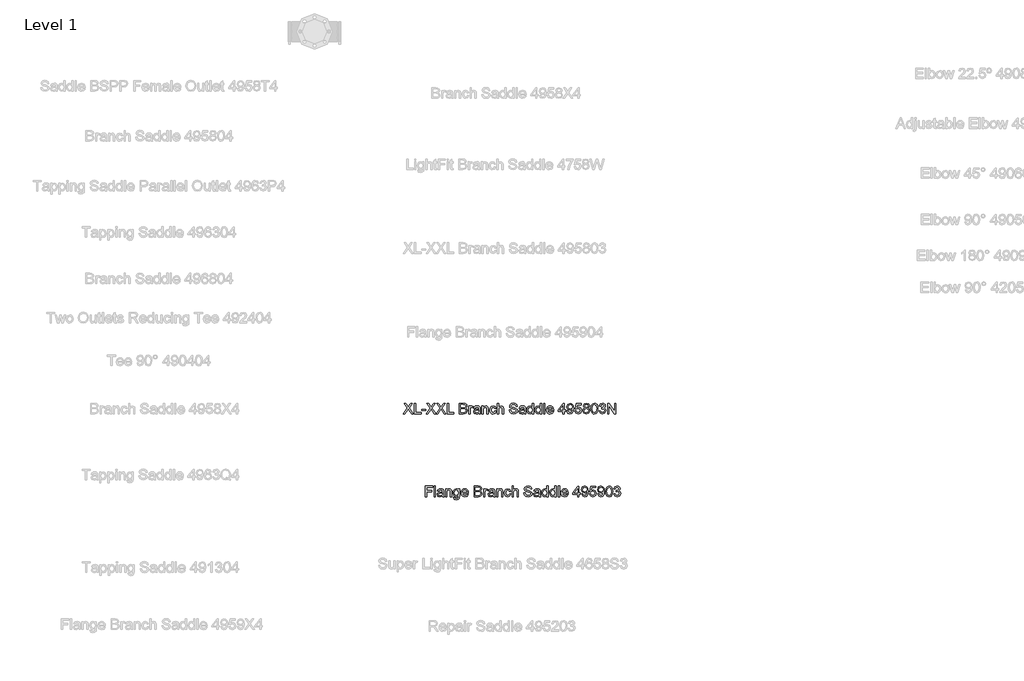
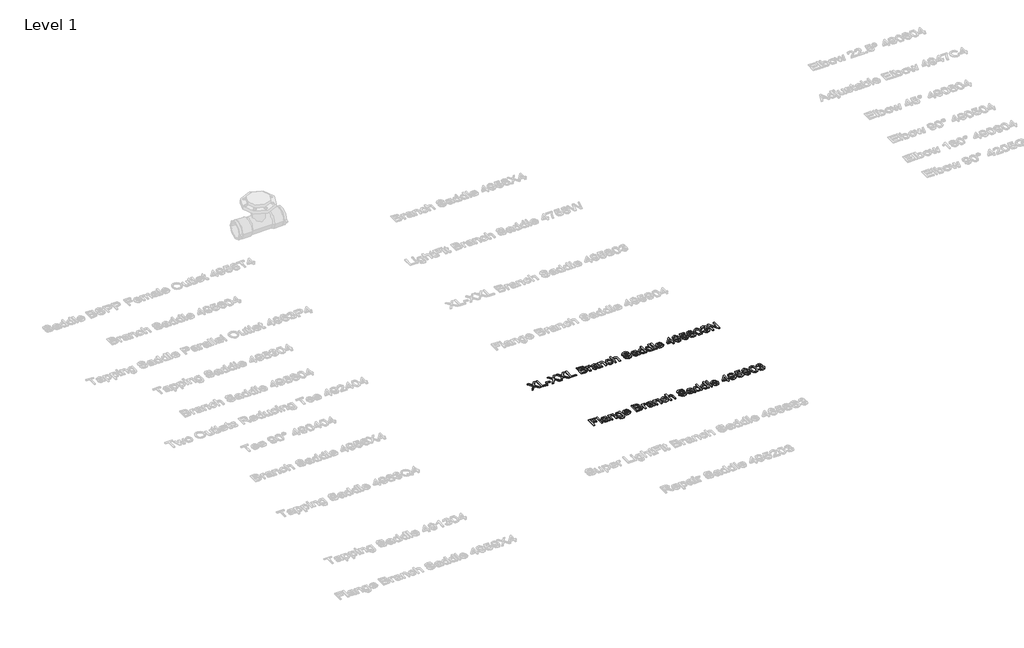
# One storey, part 12 of 41: 2 proxies.
"""IFC4 building model written with IfcOpenShell, lengths in millimetres."""

from ifc_helpers import new_model, si_unit, origin, origin_with_axes, place, context, project, spatial, polyline, outline, extrude, element, save

model = new_model("IFC4")

# Units and contexts
model_context = context("Model", 3, world=origin())
ifc_project = project(units=[si_unit("LENGTHUNIT", "METRE", prefix="MILLI")], contexts=[model_context])

# Site, building, storey
site = spatial("IfcSite", under=ifc_project)
building = spatial("IfcBuilding", under=site)
storey = spatial("IfcBuildingStorey", under=building, Name="Level 1", Elevation=0.0)

# Proxies
placement = place(None, origin())
element("IfcBuildingElementProxy", 1, Name="100 mm Arial", ObjectType="100 mm Arial", at=placement, inside=storey, context=model_context, shape_type="SweptSolid", body=[
    extrude(outline(polyline([(8429.5193072, 2827.5779735), (8452.2933456, 2859.7702812), (8433.2116149, 2886.6548966), (8442.0673841, 2886.6548966), (8452.8125764, 2871.5250889), (8456.4327687, 2865.6260505), (8460.6731533, 2871.6260505), (8471.302961, 2886.6548966), (8480.288538, 2886.6548966), (8461.2068072, 2859.6837428), (8483.9808456, 2827.5779735), (8475.1250764, 2827.5779735), (8459.9519995, 2848.9818197), (8456.7933456, 2853.4241274), (8453.3173841, 2848.5491274), (8438.5048841, 2827.5779735), (8429.5193072, 2827.5779735)])), origin_with_axes(), (0.0, 0.0, 1.0), 5.0),
    extrude(outline(polyline([(8491.365461, 2827.5779735), (8491.365461, 2886.6548966), (8498.7500764, 2886.6548966), (8498.7500764, 2834.9625889), (8528.288538, 2834.9625889), (8528.288538, 2827.5779735), (8491.365461, 2827.5779735)])), origin_with_axes(), (0.0, 0.0, 1.0), 5.0),
    extrude(outline(polyline([(8531.9808456, 2845.1164351), (8531.9808456, 2852.5010505), (8555.0577687, 2852.5010505), (8555.0577687, 2845.1164351), (8531.9808456, 2845.1164351)])), origin_with_axes(), (0.0, 0.0, 1.0), 5.0),
    extrude(outline(polyline([(8557.8269995, 2827.5779735), (8580.601038, 2859.7702812), (8561.5193072, 2886.6548966), (8570.3750764, 2886.6548966), (8581.1202687, 2871.5250889), (8584.740461, 2865.6260505), (8588.9808456, 2871.6260505), (8599.6106533, 2886.6548966), (8608.5962303, 2886.6548966), (8589.5144995, 2859.6837428), (8612.288538, 2827.5779735), (8603.4327687, 2827.5779735), (8588.2596918, 2848.9818197), (8585.101038, 2853.4241274), (8581.6250764, 2848.5491274), (8566.8125764, 2827.5779735), (8557.8269995, 2827.5779735)])), origin_with_axes(), (0.0, 0.0, 1.0), 5.0),
    extrude(outline(polyline([(8613.2116149, 2827.5779735), (8635.9856533, 2859.7702812), (8616.9039226, 2886.6548966), (8625.7596918, 2886.6548966), (8636.5048841, 2871.5250889), (8640.1250764, 2865.6260505), (8644.365461, 2871.6260505), (8654.9952687, 2886.6548966), (8663.9808456, 2886.6548966), (8644.8991149, 2859.6837428), (8667.6731533, 2827.5779735), (8658.8173841, 2827.5779735), (8643.6443072, 2848.9818197), (8640.4856533, 2853.4241274), (8637.0096918, 2848.5491274), (8622.1971918, 2827.5779735), (8613.2116149, 2827.5779735)])), origin_with_axes(), (0.0, 0.0, 1.0), 5.0),
    extrude(outline(polyline([(8675.0577687, 2827.5779735), (8675.0577687, 2886.6548966), (8682.4423841, 2886.6548966), (8682.4423841, 2834.9625889), (8711.9808456, 2834.9625889), (8711.9808456, 2827.5779735), (8675.0577687, 2827.5779735)])), origin_with_axes(), (0.0, 0.0, 1.0), 5.0),
    extrude(outline(polyline([(8743.365461, 2827.5779735), (8743.365461, 2886.6548966), (8765.9087303, 2886.6548966), (8776.9495956, 2884.9169158), (8783.4688264, 2879.5731658), (8785.8269995, 2872.0154735), (8783.8438264, 2865.1140312), (8777.851038, 2859.8856658), (8785.1274803, 2854.3760505), (8787.6731533, 2845.1885505), (8785.9351726, 2837.2486466), (8781.6298841, 2831.5948005), (8775.2044033, 2828.5948005), (8765.7356533, 2827.5779735), (8743.365461, 2827.5779735)]), holes=[polyline([(8750.7500764, 2862.6548966), (8764.2356533, 2862.6548966), (8772.1106533, 2863.289512), (8776.8486341, 2866.0226851), (8778.4423841, 2870.8327812), (8776.9568072, 2875.6500889), (8772.7019995, 2878.4986466), (8763.2116149, 2879.2702812), (8750.7500764, 2879.2702812), (8750.7500764, 2862.6548966)]), polyline([(8750.7500764, 2834.9625889), (8765.8943072, 2834.9625889), (8771.3750764, 2835.2510505), (8776.0120956, 2836.8592235), (8779.084211, 2840.1404735), (8780.288538, 2845.1164351), (8778.8750764, 2850.8568197), (8774.2957495, 2854.2823005), (8765.1731533, 2855.2702812), (8750.7500764, 2855.2702812), (8750.7500764, 2834.9625889)])]), origin_with_axes(), (0.0, 0.0, 1.0), 5.0),
    extrude(outline(polyline([(8796.9039226, 2827.5779735), (8796.9039226, 2870.9625889), (8803.365461, 2870.9625889), (8803.365461, 2864.5443197), (8807.9519995, 2870.4577812), (8812.5673841, 2871.8856658), (8819.9808456, 2869.6068197), (8817.5144995, 2862.9866274), (8812.3221918, 2864.5010505), (8808.146711, 2863.0443197), (8805.4856533, 2859.0058582), (8804.288538, 2850.3808582), (8804.288538, 2827.5779735), (8796.9039226, 2827.5779735)])), origin_with_axes(), (0.0, 0.0, 1.0), 5.0),
    extrude(outline(polyline([(8852.288538, 2833.1164351), (8845.1274803, 2828.1116274), (8837.2164226, 2826.6548966), (8826.4928649, 2830.1597043), (8822.7500764, 2839.1164351), (8824.163538, 2844.9577812), (8827.8774803, 2849.1981658), (8833.0481533, 2851.6212428), (8839.4375764, 2852.7318197), (8852.2452687, 2855.2702812), (8852.288538, 2856.914512), (8850.2548841, 2862.3664351), (8842.0914226, 2864.5010505), (8834.6202687, 2863.0803774), (8831.0577687, 2858.039512), (8823.6731533, 2858.9625889), (8826.8678649, 2866.1741274), (8833.3005572, 2870.4000889), (8843.0433456, 2871.8856658), (8851.9928649, 2870.5731658), (8857.0481533, 2867.2774928), (8859.3125764, 2862.2654735), (8859.6731533, 2855.8039351), (8859.6731533, 2846.6164351), (8860.0481533, 2833.7871082), (8861.5193072, 2827.5779735), (8854.1346918, 2827.5779735), (8852.288538, 2833.1164351)]), holes=[polyline([(8852.288538, 2847.8856658), (8840.3750764, 2845.6212428), (8834.021711, 2844.4241274), (8831.1443072, 2842.477012), (8830.1346918, 2839.6356658), (8832.334211, 2835.6404735), (8838.788538, 2834.039512), (8846.2596918, 2835.8063389), (8851.0769995, 2840.0827812), (8852.2452687, 2845.7943197), (8852.288538, 2847.8856658)])]), origin_with_axes(), (0.0, 0.0, 1.0), 5.0),
    extrude(outline(polyline([(8869.8269995, 2827.5779735), (8869.8269995, 2870.9625889), (8877.2116149, 2870.9625889), (8877.2116149, 2864.9048966), (8882.8582495, 2870.1404735), (8890.5673841, 2871.8856658), (8897.5409418, 2870.4794158), (8902.3005572, 2866.7871082), (8904.5144995, 2861.3568197), (8904.9039226, 2854.2173966), (8904.9039226, 2827.5779735), (8897.5193072, 2827.5779735), (8897.5193072, 2853.2222043), (8896.6683456, 2859.7558582), (8893.6611341, 2863.2101851), (8888.5914226, 2864.5010505), (8880.5794033, 2861.602012), (8877.2116149, 2850.5972043), (8877.2116149, 2827.5779735), (8869.8269995, 2827.5779735)])), origin_with_axes(), (0.0, 0.0, 1.0), 5.0),
    extrude(outline(polyline([(8942.7500764, 2843.2702812), (8950.1346918, 2842.3472043), (8944.2068072, 2830.8159543), (8932.4952687, 2826.6548966), (8924.6401005, 2828.1062187), (8918.4976726, 2832.4601851), (8914.5331293, 2839.5256899), (8913.2116149, 2849.1116274), (8915.4688264, 2861.3784543), (8922.3486341, 2869.2606658), (8932.3943072, 2871.8856658), (8943.6226726, 2868.2798966), (8949.2116149, 2858.039512), (8941.8269995, 2857.1164351), (8938.4015187, 2862.6476851), (8932.4519995, 2864.5010505), (8923.8919033, 2860.852012), (8920.5962303, 2849.3135505), (8923.819788, 2837.6669158), (8932.2500764, 2834.039512), (8939.209211, 2836.3039351), (8942.7500764, 2843.2702812)])), origin_with_axes(), (0.0, 0.0, 1.0), 5.0),
    extrude(outline(polyline([(8956.5962303, 2827.5779735), (8956.5962303, 2886.6548966), (8963.9808456, 2886.6548966), (8963.9808456, 2864.9337428), (8969.7392591, 2870.1476851), (8976.8318072, 2871.8856658), (8985.1250764, 2869.9890312), (8990.1587303, 2864.7462428), (8991.6731533, 2855.039512), (8991.6731533, 2827.5779735), (8984.288538, 2827.5779735), (8984.288538, 2854.2750889), (8981.9375764, 2862.0635505), (8975.2741149, 2864.5010505), (8969.2236341, 2862.8568197), (8965.1851726, 2858.4000889), (8963.9808456, 2850.6260505), (8963.9808456, 2827.5779735), (8956.5962303, 2827.5779735)])), origin_with_axes(), (0.0, 0.0, 1.0), 5.0),
    extrude(outline(polyline([(9023.0577687, 2847.8856658), (9030.4423841, 2847.8856658), (9032.8221918, 2840.4938389), (9038.6346918, 2835.820762), (9047.490461, 2834.039512), (9055.2068072, 2835.3880697), (9060.1899803, 2839.0948005), (9061.8269995, 2844.0491274), (9060.601038, 2848.6573005), (9055.5818072, 2852.0106658), (9044.8294033, 2854.8303774), (9033.2548841, 2858.4722043), (9026.9736341, 2863.9673966), (9024.9039226, 2871.3087428), (9027.4640187, 2879.6669158), (9034.9423841, 2885.5659543), (9045.8894995, 2887.5779735), (9057.5721918, 2885.4722043), (9065.3606533, 2879.2847043), (9068.288538, 2870.039512), (9060.9039226, 2870.039512), (9056.7212303, 2877.6260505), (9046.177961, 2880.1933582), (9035.6058456, 2877.6548966), (9032.288538, 2871.5250889), (9034.6394995, 2866.4048966), (9046.6971918, 2862.2798966), (9059.7644995, 2858.5731658), (9066.9111341, 2852.5875889), (9069.2116149, 2844.2366274), (9066.5649803, 2835.4024928), (9058.9495956, 2828.9553774), (9047.7789226, 2826.6548966), (9034.5890187, 2829.1356658), (9026.2452687, 2836.6068197), (9023.0577687, 2847.8856658)])), origin_with_axes(), (0.0, 0.0, 1.0), 5.0),
    extrude(outline(polyline([(9107.0577687, 2833.1164351), (9099.896711, 2828.1116274), (9091.9856533, 2826.6548966), (9081.2620956, 2830.1597043), (9077.5193072, 2839.1164351), (9078.9327687, 2844.9577812), (9082.646711, 2849.1981658), (9087.8173841, 2851.6212428), (9094.2068072, 2852.7318197), (9107.0144995, 2855.2702812), (9107.0577687, 2856.914512), (9105.0241149, 2862.3664351), (9096.8606533, 2864.5010505), (9089.3894995, 2863.0803774), (9085.8269995, 2858.039512), (9078.4423841, 2858.9625889), (9081.6370956, 2866.1741274), (9088.069788, 2870.4000889), (9097.8125764, 2871.8856658), (9106.7620956, 2870.5731658), (9111.8173841, 2867.2774928), (9114.0818072, 2862.2654735), (9114.4423841, 2855.8039351), (9114.4423841, 2846.6164351), (9114.8173841, 2833.7871082), (9116.288538, 2827.5779735), (9108.9039226, 2827.5779735), (9107.0577687, 2833.1164351)]), holes=[polyline([(9107.0577687, 2847.8856658), (9095.1443072, 2845.6212428), (9088.7909418, 2844.4241274), (9085.913538, 2842.477012), (9084.9039226, 2839.6356658), (9087.1034418, 2835.6404735), (9093.5577687, 2834.039512), (9101.0289226, 2835.8063389), (9105.8462303, 2840.0827812), (9107.0144995, 2845.7943197), (9107.0577687, 2847.8856658)])]), origin_with_axes(), (0.0, 0.0, 1.0), 5.0),
    extrude(outline(polyline([(9151.365461, 2827.5779735), (9151.365461, 2834.5443197), (9146.4796437, 2828.6272524), (9139.726038, 2826.6548966), (9130.5818072, 2829.5106658), (9124.1202687, 2837.4794158), (9121.8269995, 2849.227012), (9123.9399803, 2860.9818197), (9130.271711, 2869.0731658), (9139.6971918, 2871.8856658), (9146.5048841, 2869.8736466), (9151.365461, 2864.6452812), (9151.365461, 2886.6548966), (9158.7500764, 2886.6548966), (9158.7500764, 2827.5779735), (9151.365461, 2827.5779735)]), holes=[polyline([(9129.2116149, 2849.2558582), (9132.5433456, 2837.8255697), (9140.4039226, 2834.039512), (9148.1707495, 2837.6524928), (9151.365461, 2848.6933582), (9148.1130572, 2860.6789351), (9140.101038, 2864.5010505), (9132.3269995, 2860.8303774), (9129.2116149, 2849.2558582)])]), origin_with_axes(), (0.0, 0.0, 1.0), 5.0),
    extrude(outline(polyline([(9196.5962303, 2827.5779735), (9196.5962303, 2834.5443197), (9191.710413, 2828.6272524), (9184.9568072, 2826.6548966), (9175.8125764, 2829.5106658), (9169.351038, 2837.4794158), (9167.0577687, 2849.227012), (9169.1707495, 2860.9818197), (9175.5024803, 2869.0731658), (9184.927961, 2871.8856658), (9191.7356533, 2869.8736466), (9196.5962303, 2864.6452812), (9196.5962303, 2886.6548966), (9203.9808456, 2886.6548966), (9203.9808456, 2827.5779735), (9196.5962303, 2827.5779735)]), holes=[polyline([(9174.4423841, 2849.2558582), (9177.7741149, 2837.8255697), (9185.6346918, 2834.039512), (9193.4015187, 2837.6524928), (9196.5962303, 2848.6933582), (9193.3438264, 2860.6789351), (9185.3318072, 2864.5010505), (9177.5577687, 2860.8303774), (9174.4423841, 2849.2558582)])]), origin_with_axes(), (0.0, 0.0, 1.0), 5.0),
    extrude(outline(polyline([(9215.0577687, 2827.5779735), (9215.0577687, 2886.6548966), (9222.4423841, 2886.6548966), (9222.4423841, 2827.5779735), (9215.0577687, 2827.5779735)])), origin_with_axes(), (0.0, 0.0, 1.0), 5.0),
    extrude(outline(polyline([(9263.8943072, 2840.5010505), (9271.1346918, 2839.5779735), (9264.3630572, 2830.0443197), (9251.7500764, 2826.6548966), (9243.085413, 2828.117036), (9236.4183456, 2832.5034543), (9232.1671437, 2839.5292957), (9230.7500764, 2848.9097043), (9232.1815668, 2858.6056178), (9236.476038, 2865.8568197), (9243.052961, 2870.3784543), (9251.3318072, 2871.8856658), (9259.3528408, 2870.3820601), (9265.7620956, 2865.8712428), (9269.9646197, 2858.6344639), (9271.365461, 2848.9529735), (9271.3221918, 2846.9625889), (9238.1346918, 2846.9625889), (9242.382288, 2837.3712428), (9251.8943072, 2834.039512), (9259.1346918, 2835.5827812), (9263.8943072, 2840.5010505)]), holes=[polyline([(9238.1346918, 2854.3472043), (9263.9808456, 2854.3472043), (9261.0241149, 2861.039512), (9251.302961, 2864.5010505), (9242.209211, 2861.7390312), (9238.1346918, 2854.3472043)])]), origin_with_axes(), (0.0, 0.0, 1.0), 5.0),
    extrude(outline(polyline([(9323.9808456, 2827.5779735), (9323.9808456, 2841.4241274), (9297.2116149, 2841.4241274), (9297.2116149, 2848.8087428), (9325.8269995, 2885.7318197), (9331.365461, 2885.7318197), (9331.365461, 2848.8087428), (9338.7500764, 2848.8087428), (9338.7500764, 2841.4241274), (9331.365461, 2841.4241274), (9331.365461, 2827.5779735), (9323.9808456, 2827.5779735)]), holes=[polyline([(9323.9808456, 2848.8087428), (9323.9808456, 2871.6260505), (9306.2981533, 2848.8087428), (9323.9808456, 2848.8087428)])]), origin_with_axes(), (0.0, 0.0, 1.0), 5.0),
    extrude(outline(polyline([(9346.1346918, 2842.3472043), (9353.5193072, 2843.2702812), (9356.8366149, 2836.2246082), (9363.1250764, 2834.039512), (9369.1034418, 2835.445762), (9373.1563264, 2839.2029735), (9375.5721918, 2845.6212428), (9376.6394995, 2854.1885505), (9370.6899803, 2850.0347043), (9362.5914226, 2847.8856658), (9350.2524803, 2853.1356658), (9345.2116149, 2866.9673966), (9350.4976726, 2881.2462428), (9363.7452687, 2886.6548966), (9374.2669033, 2883.5683582), (9381.507288, 2874.7702812), (9383.9808456, 2858.2414351), (9381.5144995, 2840.3063389), (9374.1803649, 2830.1452812), (9362.7789226, 2826.6548966), (9351.427961, 2830.7726851), (9346.1346918, 2842.3472043)]), holes=[polyline([(9376.5962303, 2867.1404735), (9373.4087303, 2875.9962428), (9364.9423841, 2879.2702812), (9356.0577687, 2875.7438389), (9352.5962303, 2866.6068197), (9355.8702687, 2858.4217235), (9364.740461, 2855.2702812), (9373.257288, 2858.4217235), (9376.5962303, 2867.1404735)])]), origin_with_axes(), (0.0, 0.0, 1.0), 5.0),
    extrude(outline(polyline([(9390.4423841, 2843.2702812), (9397.8269995, 2844.1933582), (9401.5481533, 2836.5851851), (9409.2644995, 2834.039512), (9418.5241149, 2837.5803774), (9421.8269995, 2846.977012), (9418.7332495, 2855.7462428), (9409.3798841, 2858.9625889), (9402.896711, 2857.6789351), (9398.7500764, 2854.3472043), (9391.365461, 2855.2702812), (9397.8269995, 2885.7318197), (9426.4423841, 2885.7318197), (9426.4423841, 2878.3472043), (9403.7981533, 2878.3472043), (9400.6394995, 2862.0779735), (9411.4423841, 2866.3472043), (9424.069788, 2861.0539351), (9429.2116149, 2847.4385505), (9424.5818072, 2833.7366274), (9417.9327687, 2828.4253293), (9409.2356533, 2826.6548966), (9396.2044033, 2831.2053774), (9390.4423841, 2843.2702812)])), origin_with_axes(), (0.0, 0.0, 1.0), 5.0),
    extrude(outline(polyline([(9446.4327687, 2860.1164351), (9439.7044033, 2864.7029735), (9437.5193072, 2871.8423966), (9442.2789226, 2882.3856658), (9454.9568072, 2886.6548966), (9467.7500764, 2882.2847043), (9472.5962303, 2871.6404735), (9470.4399803, 2864.6813389), (9463.8991149, 2860.1164351), (9471.7524803, 2854.3255697), (9474.4423841, 2844.7702812), (9469.1058456, 2831.8760505), (9455.0577687, 2826.6548966), (9441.0096918, 2831.8976851), (9435.6731533, 2844.9722043), (9438.4712303, 2854.7510505), (9446.4327687, 2860.1164351)]), holes=[polyline([(9444.9039226, 2871.6260505), (9447.521711, 2865.8279735), (9455.1443072, 2863.5779735), (9462.615461, 2865.8135505), (9465.2116149, 2871.2943197), (9462.5289226, 2876.9698005), (9455.0577687, 2879.2702812), (9447.5649803, 2877.0202812), (9444.9039226, 2871.6260505)]), polyline([(9443.0577687, 2845.2318197), (9444.2909418, 2839.6717235), (9448.6539226, 2835.5106658), (9455.115461, 2834.039512), (9463.913538, 2837.133262), (9467.0577687, 2845.0010505), (9463.8125764, 2853.0202812), (9454.8702687, 2856.1933582), (9446.1803649, 2853.0635505), (9443.0577687, 2845.2318197)])]), origin_with_axes(), (0.0, 0.0, 1.0), 5.0),
    extrude(outline(polyline([(9480.9039226, 2856.6404735), (9483.0745956, 2873.6380697), (9489.521711, 2883.4385505), (9500.288538, 2886.6548966), (9508.913538, 2884.7510505), (9514.8702687, 2879.2630697), (9518.3318072, 2870.5226851), (9519.6731533, 2856.6404735), (9517.5241149, 2839.7149928), (9511.0986341, 2829.8928774), (9500.288538, 2826.6548966), (9492.615461, 2828.0611466), (9486.788538, 2832.2798966), (9482.3750764, 2842.2714832), (9480.9039226, 2856.6404735)]), holes=[polyline([(9488.288538, 2856.6548966), (9491.7500764, 2838.3159543), (9500.288538, 2834.039512), (9508.8269995, 2838.3303774), (9512.288538, 2856.6548966), (9508.9423841, 2874.7847043), (9500.2019995, 2879.2702812), (9491.865461, 2875.3183582), (9488.288538, 2856.6548966)])]), origin_with_axes(), (0.0, 0.0, 1.0), 5.0),
    extrude(outline(polyline([(9526.1346918, 2843.2702812), (9533.5193072, 2844.1933582), (9537.5938264, 2836.4193197), (9545.2164226, 2834.039512), (9554.1875764, 2837.3135505), (9557.5193072, 2845.4193197), (9554.2164226, 2853.0563389), (9545.8221918, 2856.0779735), (9540.6443072, 2855.2702812), (9541.4664226, 2862.6548966), (9551.0289226, 2864.6885505), (9554.7500764, 2871.2077812), (9552.052961, 2876.9842235), (9545.101038, 2879.2702812), (9538.0625764, 2876.9625889), (9534.4423841, 2870.039512), (9527.0577687, 2870.9625889), (9533.101038, 2882.5443197), (9544.8414226, 2886.6548966), (9553.7476726, 2884.6284543), (9559.9784418, 2879.0899928), (9562.1346918, 2871.6404735), (9560.0866149, 2864.8327812), (9554.0289226, 2859.9433582), (9562.0769995, 2854.8952812), (9564.9039226, 2845.289512), (9559.2500764, 2832.0779735), (9544.9568072, 2826.6548966), (9532.0048841, 2831.2847043), (9526.1346918, 2843.2702812)])), origin_with_axes(), (0.0, 0.0, 1.0), 5.0),
    extrude(outline(polyline([(9574.1346918, 2827.5779735), (9574.1346918, 2886.6548966), (9582.038538, 2886.6548966), (9612.9039226, 2839.852012), (9612.9039226, 2886.6548966), (9620.288538, 2886.6548966), (9620.288538, 2827.5779735), (9612.3846918, 2827.5779735), (9581.5193072, 2874.3952812), (9581.5193072, 2827.5779735), (9574.1346918, 2827.5779735)])), origin_with_axes(), (0.0, 0.0, 1.0), 5.0),
])
element("IfcBuildingElementProxy", 2, Name="100 mm Arial", ObjectType="100 mm Arial", at=placement, inside=storey, context=model_context, shape_type="SweptSolid", body=[
    extrude(outline(polyline([(8553.0655723, 2362.7799637), (8553.0655723, 2421.8568868), (8592.75788, 2421.8568868), (8592.75788, 2414.4722714), (8560.4501877, 2414.4722714), (8560.4501877, 2396.9338099), (8588.1424954, 2396.9338099), (8588.1424954, 2389.5491945), (8560.4501877, 2389.5491945), (8560.4501877, 2362.7799637), (8553.0655723, 2362.7799637)])), origin_with_axes(), (0.0, 0.0, 1.0), 5.0),
    extrude(outline(polyline([(8601.9886492, 2362.7799637), (8601.9886492, 2421.8568868), (8609.3732646, 2421.8568868), (8609.3732646, 2362.7799637), (8601.9886492, 2362.7799637)])), origin_with_axes(), (0.0, 0.0, 1.0), 5.0),
    extrude(outline(polyline([(8648.1424954, 2368.3184253), (8640.9814377, 2363.3136176), (8633.07038, 2361.8568868), (8622.3468223, 2365.3616945), (8618.6040339, 2374.3184253), (8620.0174954, 2380.1597714), (8623.7314377, 2384.400156), (8628.9021108, 2386.823233), (8635.2915339, 2387.9338099), (8648.0992262, 2390.4722714), (8648.1424954, 2392.1165022), (8646.1088416, 2397.5684253), (8637.94538, 2399.7030406), (8630.4742262, 2398.2823676), (8626.9117262, 2393.2415022), (8619.5271108, 2394.1645791), (8622.7218223, 2401.3761176), (8629.1545146, 2405.6020791), (8638.8973031, 2407.087656), (8647.8468223, 2405.775156), (8652.9021108, 2402.479483), (8655.1665339, 2397.4674637), (8655.5271108, 2391.0059253), (8655.5271108, 2381.8184253), (8655.9021108, 2368.9890983), (8657.3732646, 2362.7799637), (8649.9886492, 2362.7799637), (8648.1424954, 2368.3184253)]), holes=[polyline([(8648.1424954, 2383.087656), (8636.2290339, 2380.823233), (8629.8756685, 2379.6261176), (8626.9982646, 2377.6790022), (8625.9886492, 2374.837656), (8628.1881685, 2370.8424637), (8634.6424954, 2369.2415022), (8642.1136492, 2371.0083291), (8646.9309569, 2375.2847714), (8648.0992262, 2380.9963099), (8648.1424954, 2383.087656)])]), origin_with_axes(), (0.0, 0.0, 1.0), 5.0),
    extrude(outline(polyline([(8665.6809569, 2362.7799637), (8665.6809569, 2406.1645791), (8673.0655723, 2406.1645791), (8673.0655723, 2400.1068868), (8678.7122069, 2405.3424637), (8686.4213416, 2407.087656), (8693.3948992, 2405.681406), (8698.1545146, 2401.9890983), (8700.3684569, 2396.5588099), (8700.75788, 2389.4193868), (8700.75788, 2362.7799637), (8693.3732646, 2362.7799637), (8693.3732646, 2388.4241945), (8692.5223031, 2394.9578483), (8689.5150916, 2398.4121753), (8684.44538, 2399.7030406), (8676.4333608, 2396.8040022), (8673.0655723, 2385.7991945), (8673.0655723, 2362.7799637), (8665.6809569, 2362.7799637)])), origin_with_axes(), (0.0, 0.0, 1.0), 5.0),
    extrude(outline(polyline([(8709.0655723, 2359.087656), (8716.4501877, 2358.1645791), (8718.8444185, 2354.2703483), (8726.0126877, 2352.6261176), (8733.57038, 2354.4866945), (8737.1761492, 2359.7078483), (8737.6809569, 2368.3184253), (8726.1424954, 2362.7799637), (8718.5289137, 2364.3917426), (8712.85163, 2369.2270791), (8708.1424954, 2384.6886176), (8710.2554762, 2396.1333291), (8716.3708608, 2404.2318868), (8725.7819185, 2407.087656), (8732.3696589, 2405.4722714), (8737.6809569, 2400.6261176), (8737.6809569, 2406.1645791), (8745.0655723, 2406.1645791), (8745.0655723, 2368.7078483), (8743.0463416, 2354.3640983), (8736.6497069, 2347.6934253), (8725.8684569, 2345.2415022), (8713.5872069, 2348.6958291), (8709.0655723, 2359.087656)]), holes=[polyline([(8715.5271108, 2385.1934253), (8718.6785531, 2373.7631368), (8726.5896108, 2370.1645791), (8734.4862454, 2373.7415022), (8737.6809569, 2384.9770791), (8734.3924954, 2395.9890983), (8726.4742262, 2399.7030406), (8718.7218223, 2396.0467906), (8715.5271108, 2385.1934253)])]), origin_with_axes(), (0.0, 0.0, 1.0), 5.0),
    extrude(outline(polyline([(8786.5174954, 2375.7030406), (8793.75788, 2374.7799637), (8786.9862454, 2365.2463099), (8774.3732646, 2361.8568868), (8765.7086012, 2363.3190262), (8759.0415339, 2367.7054445), (8754.7903319, 2374.7312858), (8753.3732646, 2384.1116945), (8754.804755, 2393.807608), (8759.0992262, 2401.0588099), (8765.6761492, 2405.5804445), (8773.9549954, 2407.087656), (8781.9760291, 2405.5840503), (8788.3852839, 2401.073233), (8792.5878079, 2393.8364541), (8793.9886492, 2384.1549637), (8793.94538, 2382.1645791), (8760.75788, 2382.1645791), (8765.0054762, 2372.573233), (8774.5174954, 2369.2415022), (8781.75788, 2370.7847714), (8786.5174954, 2375.7030406)]), holes=[polyline([(8760.75788, 2389.5491945), (8786.6040339, 2389.5491945), (8783.6473031, 2396.2415022), (8773.9261492, 2399.7030406), (8764.8323992, 2396.9410214), (8760.75788, 2389.5491945)])]), origin_with_axes(), (0.0, 0.0, 1.0), 5.0),
    extrude(outline(polyline([(8825.3732646, 2362.7799637), (8825.3732646, 2421.8568868), (8847.9165339, 2421.8568868), (8858.9573992, 2420.118906), (8865.47663, 2414.775156), (8867.8348031, 2407.2174637), (8865.85163, 2400.3160214), (8859.8588416, 2395.087656), (8867.1352839, 2389.5780406), (8869.6809569, 2380.3905406), (8867.9429762, 2372.4506368), (8863.6376877, 2366.7967906), (8857.2122069, 2363.7967906), (8847.7434569, 2362.7799637), (8825.3732646, 2362.7799637)]), holes=[polyline([(8832.75788, 2370.1645791), (8847.9021108, 2370.1645791), (8853.38288, 2370.4530406), (8858.0198992, 2372.0612137), (8861.0920146, 2375.3424637), (8862.2963416, 2380.3184253), (8860.88288, 2386.0588099), (8856.3035531, 2389.4842906), (8847.1809569, 2390.4722714), (8832.75788, 2390.4722714), (8832.75788, 2370.1645791)]), polyline([(8832.75788, 2397.8568868), (8846.2434569, 2397.8568868), (8854.1184569, 2398.4915022), (8858.8564377, 2401.2246753), (8860.4501877, 2406.0347714), (8858.9646108, 2410.8520791), (8854.7098031, 2413.7006368), (8845.2194185, 2414.4722714), (8832.75788, 2414.4722714), (8832.75788, 2397.8568868)])]), origin_with_axes(), (0.0, 0.0, 1.0), 5.0),
    extrude(outline(polyline([(8878.9117262, 2362.7799637), (8878.9117262, 2406.1645791), (8885.3732646, 2406.1645791), (8885.3732646, 2399.7463099), (8889.9598031, 2405.6597714), (8894.5751877, 2407.087656), (8901.9886492, 2404.8088099), (8899.5223031, 2398.1886176), (8894.3299954, 2399.7030406), (8890.1545146, 2398.2463099), (8887.4934569, 2394.2078483), (8886.2963416, 2385.5828483), (8886.2963416, 2362.7799637), (8878.9117262, 2362.7799637)])), origin_with_axes(), (0.0, 0.0, 1.0), 5.0),
    extrude(outline(polyline([(8934.2963416, 2368.3184253), (8927.1352839, 2363.3136176), (8919.2242262, 2361.8568868), (8908.5006685, 2365.3616945), (8904.75788, 2374.3184253), (8906.1713416, 2380.1597714), (8909.8852839, 2384.400156), (8915.0559569, 2386.823233), (8921.44538, 2387.9338099), (8934.2530723, 2390.4722714), (8934.2963416, 2392.1165022), (8932.2626877, 2397.5684253), (8924.0992262, 2399.7030406), (8916.6280723, 2398.2823676), (8913.0655723, 2393.2415022), (8905.6809569, 2394.1645791), (8908.8756685, 2401.3761176), (8915.3083608, 2405.6020791), (8925.0511492, 2407.087656), (8934.0006685, 2405.775156), (8939.0559569, 2402.479483), (8941.32038, 2397.4674637), (8941.6809569, 2391.0059253), (8941.6809569, 2381.8184253), (8942.0559569, 2368.9890983), (8943.5271108, 2362.7799637), (8936.1424954, 2362.7799637), (8934.2963416, 2368.3184253)]), holes=[polyline([(8934.2963416, 2383.087656), (8922.38288, 2380.823233), (8916.0295146, 2379.6261176), (8913.1521108, 2377.6790022), (8912.1424954, 2374.837656), (8914.3420146, 2370.8424637), (8920.7963416, 2369.2415022), (8928.2674954, 2371.0083291), (8933.0848031, 2375.2847714), (8934.2530723, 2380.9963099), (8934.2963416, 2383.087656)])]), origin_with_axes(), (0.0, 0.0, 1.0), 5.0),
    extrude(outline(polyline([(8951.8348031, 2362.7799637), (8951.8348031, 2406.1645791), (8959.2194185, 2406.1645791), (8959.2194185, 2400.1068868), (8964.8660531, 2405.3424637), (8972.5751877, 2407.087656), (8979.5487454, 2405.681406), (8984.3083608, 2401.9890983), (8986.5223031, 2396.5588099), (8986.9117262, 2389.4193868), (8986.9117262, 2362.7799637), (8979.5271108, 2362.7799637), (8979.5271108, 2388.4241945), (8978.6761492, 2394.9578483), (8975.6689377, 2398.4121753), (8970.5992262, 2399.7030406), (8962.5872069, 2396.8040022), (8959.2194185, 2385.7991945), (8959.2194185, 2362.7799637), (8951.8348031, 2362.7799637)])), origin_with_axes(), (0.0, 0.0, 1.0), 5.0),
    extrude(outline(polyline([(9024.75788, 2378.4722714), (9032.1424954, 2377.5491945), (9026.2146108, 2366.0179445), (9014.5030723, 2361.8568868), (9006.6479041, 2363.3082089), (9000.5054762, 2367.6621753), (8996.5409329, 2374.7276801), (8995.2194185, 2384.3136176), (8997.47663, 2396.5804445), (9004.3564377, 2404.462656), (9014.4021108, 2407.087656), (9025.6304762, 2403.4818868), (9031.2194185, 2393.2415022), (9023.8348031, 2392.3184253), (9020.4093223, 2397.8496753), (9014.4598031, 2399.7030406), (9005.8997069, 2396.0540022), (9002.6040339, 2384.5155406), (9005.8275916, 2372.868906), (9014.25788, 2369.2415022), (9021.2170146, 2371.5059253), (9024.75788, 2378.4722714)])), origin_with_axes(), (0.0, 0.0, 1.0), 5.0),
    extrude(outline(polyline([(9038.6040339, 2362.7799637), (9038.6040339, 2421.8568868), (9045.9886492, 2421.8568868), (9045.9886492, 2400.135733), (9051.7470627, 2405.3496753), (9058.8396108, 2407.087656), (9067.13288, 2405.1910214), (9072.1665339, 2399.948233), (9073.6809569, 2390.2415022), (9073.6809569, 2362.7799637), (9066.2963416, 2362.7799637), (9066.2963416, 2389.4770791), (9063.94538, 2397.2655406), (9057.2819185, 2399.7030406), (9051.2314377, 2398.0588099), (9047.1929762, 2393.6020791), (9045.9886492, 2385.8280406), (9045.9886492, 2362.7799637), (9038.6040339, 2362.7799637)])), origin_with_axes(), (0.0, 0.0, 1.0), 5.0),
    extrude(outline(polyline([(9105.0655723, 2383.087656), (9112.4501877, 2383.087656), (9114.8299954, 2375.6958291), (9120.6424954, 2371.0227522), (9129.4982646, 2369.2415022), (9137.2146108, 2370.5900599), (9142.1977839, 2374.2967906), (9143.8348031, 2379.2511176), (9142.6088416, 2383.8592906), (9137.5896108, 2387.212656), (9126.8372069, 2390.0323676), (9115.2626877, 2393.6741945), (9108.9814377, 2399.1693868), (9106.9117262, 2406.510733), (9109.4718223, 2414.868906), (9116.9501877, 2420.7679445), (9127.8973031, 2422.7799637), (9139.5799954, 2420.6741945), (9147.3684569, 2414.4866945), (9150.2963416, 2405.2415022), (9142.9117262, 2405.2415022), (9138.7290339, 2412.8280406), (9128.1857646, 2415.3953483), (9117.6136492, 2412.8568868), (9114.2963416, 2406.7270791), (9116.6473031, 2401.6068868), (9128.7049954, 2397.4818868), (9141.7723031, 2393.775156), (9148.9189377, 2387.7895791), (9151.2194185, 2379.4386176), (9148.5727839, 2370.604483), (9140.9573992, 2364.1573676), (9129.7867262, 2361.8568868), (9116.5968223, 2364.337656), (9108.2530723, 2371.8088099), (9105.0655723, 2383.087656)])), origin_with_axes(), (0.0, 0.0, 1.0), 5.0),
    extrude(outline(polyline([(9189.0655723, 2368.3184253), (9181.9045146, 2363.3136176), (9173.9934569, 2361.8568868), (9163.2698992, 2365.3616945), (9159.5271108, 2374.3184253), (9160.9405723, 2380.1597714), (9164.6545146, 2384.400156), (9169.8251877, 2386.823233), (9176.2146108, 2387.9338099), (9189.0223031, 2390.4722714), (9189.0655723, 2392.1165022), (9187.0319185, 2397.5684253), (9178.8684569, 2399.7030406), (9171.3973031, 2398.2823676), (9167.8348031, 2393.2415022), (9160.4501877, 2394.1645791), (9163.6448992, 2401.3761176), (9170.0775916, 2405.6020791), (9179.82038, 2407.087656), (9188.7698992, 2405.775156), (9193.8251877, 2402.479483), (9196.0896108, 2397.4674637), (9196.4501877, 2391.0059253), (9196.4501877, 2381.8184253), (9196.8251877, 2368.9890983), (9198.2963416, 2362.7799637), (9190.9117262, 2362.7799637), (9189.0655723, 2368.3184253)]), holes=[polyline([(9189.0655723, 2383.087656), (9177.1521108, 2380.823233), (9170.7987454, 2379.6261176), (9167.9213416, 2377.6790022), (9166.9117262, 2374.837656), (9169.1112454, 2370.8424637), (9175.5655723, 2369.2415022), (9183.0367262, 2371.0083291), (9187.8540339, 2375.2847714), (9189.0223031, 2380.9963099), (9189.0655723, 2383.087656)])]), origin_with_axes(), (0.0, 0.0, 1.0), 5.0),
    extrude(outline(polyline([(9233.3732646, 2362.7799637), (9233.3732646, 2369.7463099), (9228.4874473, 2363.8292426), (9221.7338416, 2361.8568868), (9212.5896108, 2364.712656), (9206.1280723, 2372.681406), (9203.8348031, 2384.4290022), (9205.9477839, 2396.1838099), (9212.2795146, 2404.275156), (9221.7049954, 2407.087656), (9228.5126877, 2405.0756368), (9233.3732646, 2399.8472714), (9233.3732646, 2421.8568868), (9240.75788, 2421.8568868), (9240.75788, 2362.7799637), (9233.3732646, 2362.7799637)]), holes=[polyline([(9211.2194185, 2384.4578483), (9214.5511492, 2373.0275599), (9222.4117262, 2369.2415022), (9230.1785531, 2372.854483), (9233.3732646, 2383.8953483), (9230.1208608, 2395.8809253), (9222.1088416, 2399.7030406), (9214.3348031, 2396.0323676), (9211.2194185, 2384.4578483)])]), origin_with_axes(), (0.0, 0.0, 1.0), 5.0),
    extrude(outline(polyline([(9278.6040339, 2362.7799637), (9278.6040339, 2369.7463099), (9273.7182166, 2363.8292426), (9266.9646108, 2361.8568868), (9257.82038, 2364.712656), (9251.3588416, 2372.681406), (9249.0655723, 2384.4290022), (9251.1785531, 2396.1838099), (9257.5102839, 2404.275156), (9266.9357646, 2407.087656), (9273.7434569, 2405.0756368), (9278.6040339, 2399.8472714), (9278.6040339, 2421.8568868), (9285.9886492, 2421.8568868), (9285.9886492, 2362.7799637), (9278.6040339, 2362.7799637)]), holes=[polyline([(9256.4501877, 2384.4578483), (9259.7819185, 2373.0275599), (9267.6424954, 2369.2415022), (9275.4093223, 2372.854483), (9278.6040339, 2383.8953483), (9275.35163, 2395.8809253), (9267.3396108, 2399.7030406), (9259.5655723, 2396.0323676), (9256.4501877, 2384.4578483)])]), origin_with_axes(), (0.0, 0.0, 1.0), 5.0),
    extrude(outline(polyline([(9297.0655723, 2362.7799637), (9297.0655723, 2421.8568868), (9304.4501877, 2421.8568868), (9304.4501877, 2362.7799637), (9297.0655723, 2362.7799637)])), origin_with_axes(), (0.0, 0.0, 1.0), 5.0),
    extrude(outline(polyline([(9345.9021108, 2375.7030406), (9353.1424954, 2374.7799637), (9346.3708608, 2365.2463099), (9333.75788, 2361.8568868), (9325.0932166, 2363.3190262), (9318.4261492, 2367.7054445), (9314.1749473, 2374.7312858), (9312.75788, 2384.1116945), (9314.1893704, 2393.807608), (9318.4838416, 2401.0588099), (9325.0607646, 2405.5804445), (9333.3396108, 2407.087656), (9341.3606444, 2405.5840503), (9347.7698992, 2401.073233), (9351.9724233, 2393.8364541), (9353.3732646, 2384.1549637), (9353.3299954, 2382.1645791), (9320.1424954, 2382.1645791), (9324.3900916, 2372.573233), (9333.9021108, 2369.2415022), (9341.1424954, 2370.7847714), (9345.9021108, 2375.7030406)]), holes=[polyline([(9320.1424954, 2389.5491945), (9345.9886492, 2389.5491945), (9343.0319185, 2396.2415022), (9333.3107646, 2399.7030406), (9324.2170146, 2396.9410214), (9320.1424954, 2389.5491945)])]), origin_with_axes(), (0.0, 0.0, 1.0), 5.0),
    extrude(outline(polyline([(9405.9886492, 2362.7799637), (9405.9886492, 2376.6261176), (9379.2194185, 2376.6261176), (9379.2194185, 2384.010733), (9407.8348031, 2420.9338099), (9413.3732646, 2420.9338099), (9413.3732646, 2384.010733), (9420.75788, 2384.010733), (9420.75788, 2376.6261176), (9413.3732646, 2376.6261176), (9413.3732646, 2362.7799637), (9405.9886492, 2362.7799637)]), holes=[polyline([(9405.9886492, 2384.010733), (9405.9886492, 2406.8280406), (9388.3059569, 2384.010733), (9405.9886492, 2384.010733)])]), origin_with_axes(), (0.0, 0.0, 1.0), 5.0),
    extrude(outline(polyline([(9428.1424954, 2377.5491945), (9435.5271108, 2378.4722714), (9438.8444185, 2371.4265983), (9445.13288, 2369.2415022), (9451.1112454, 2370.6477522), (9455.16413, 2374.4049637), (9457.5799954, 2380.823233), (9458.6473031, 2389.3905406), (9452.6977839, 2385.2366945), (9444.5992262, 2383.087656), (9432.2602839, 2388.337656), (9427.2194185, 2402.1693868), (9432.5054762, 2416.448233), (9445.7530723, 2421.8568868), (9456.2747069, 2418.7703483), (9463.5150916, 2409.9722714), (9465.9886492, 2393.4434253), (9463.5223031, 2375.5083291), (9456.1881685, 2365.3472714), (9444.7867262, 2361.8568868), (9433.4357646, 2365.9746753), (9428.1424954, 2377.5491945)]), holes=[polyline([(9458.6040339, 2402.3424637), (9455.4165339, 2411.198233), (9446.9501877, 2414.4722714), (9438.0655723, 2410.9458291), (9434.6040339, 2401.8088099), (9437.8780723, 2393.6237137), (9446.7482646, 2390.4722714), (9455.2650916, 2393.6237137), (9458.6040339, 2402.3424637)])]), origin_with_axes(), (0.0, 0.0, 1.0), 5.0),
    extrude(outline(polyline([(9472.4501877, 2378.4722714), (9479.8348031, 2379.3953483), (9483.5559569, 2371.7871753), (9491.2723031, 2369.2415022), (9500.5319185, 2372.7823676), (9503.8348031, 2382.1790022), (9500.7410531, 2390.948233), (9491.3876877, 2394.1645791), (9484.9045146, 2392.8809253), (9480.75788, 2389.5491945), (9473.3732646, 2390.4722714), (9479.8348031, 2420.9338099), (9508.4501877, 2420.9338099), (9508.4501877, 2413.5491945), (9485.8059569, 2413.5491945), (9482.6473031, 2397.2799637), (9493.4501877, 2401.5491945), (9506.0775916, 2396.2559253), (9511.2194185, 2382.6405406), (9506.5896108, 2368.9386176), (9499.9405723, 2363.6273195), (9491.2434569, 2361.8568868), (9478.2122069, 2366.4073676), (9472.4501877, 2378.4722714)])), origin_with_axes(), (0.0, 0.0, 1.0), 5.0),
    extrude(outline(polyline([(9518.6040339, 2377.5491945), (9525.9886492, 2378.4722714), (9529.3059569, 2371.4265983), (9535.5944185, 2369.2415022), (9541.5727839, 2370.6477522), (9545.6256685, 2374.4049637), (9548.0415339, 2380.823233), (9549.1088416, 2389.3905406), (9543.1593223, 2385.2366945), (9535.0607646, 2383.087656), (9522.7218223, 2388.337656), (9517.6809569, 2402.1693868), (9522.9670146, 2416.448233), (9536.2146108, 2421.8568868), (9546.7362454, 2418.7703483), (9553.97663, 2409.9722714), (9556.4501877, 2393.4434253), (9553.9838416, 2375.5083291), (9546.6497069, 2365.3472714), (9535.2482646, 2361.8568868), (9523.8973031, 2365.9746753), (9518.6040339, 2377.5491945)]), holes=[polyline([(9549.0655723, 2402.3424637), (9545.8780723, 2411.198233), (9537.4117262, 2414.4722714), (9528.5271108, 2410.9458291), (9525.0655723, 2401.8088099), (9528.3396108, 2393.6237137), (9537.2098031, 2390.4722714), (9545.72663, 2393.6237137), (9549.0655723, 2402.3424637)])]), origin_with_axes(), (0.0, 0.0, 1.0), 5.0),
    extrude(outline(polyline([(9562.9117262, 2391.8424637), (9565.0823992, 2408.8400599), (9571.5295146, 2418.6405406), (9582.2963416, 2421.8568868), (9590.9213416, 2419.9530406), (9596.8780723, 2414.4650599), (9600.3396108, 2405.7246753), (9601.6809569, 2391.8424637), (9599.5319185, 2374.916983), (9593.1064377, 2365.0948676), (9582.2963416, 2361.8568868), (9574.6232646, 2363.2631368), (9568.7963416, 2367.4818868), (9564.38288, 2377.4734733), (9562.9117262, 2391.8424637)]), holes=[polyline([(9570.2963416, 2391.8568868), (9573.75788, 2373.5179445), (9582.2963416, 2369.2415022), (9590.8348031, 2373.5323676), (9594.2963416, 2391.8568868), (9590.9501877, 2409.9866945), (9582.2098031, 2414.4722714), (9573.8732646, 2410.5203483), (9570.2963416, 2391.8568868)])]), origin_with_axes(), (0.0, 0.0, 1.0), 5.0),
    extrude(outline(polyline([(9608.1424954, 2378.4722714), (9615.5271108, 2379.3953483), (9619.60163, 2371.6213099), (9627.2242262, 2369.2415022), (9636.19538, 2372.5155406), (9639.5271108, 2380.6213099), (9636.2242262, 2388.2583291), (9627.8299954, 2391.2799637), (9622.6521108, 2390.4722714), (9623.4742262, 2397.8568868), (9633.0367262, 2399.8905406), (9636.75788, 2406.4097714), (9634.0607646, 2412.1862137), (9627.1088416, 2414.4722714), (9620.07038, 2412.1645791), (9616.4501877, 2405.2415022), (9609.0655723, 2406.1645791), (9615.1088416, 2417.7463099), (9626.8492262, 2421.8568868), (9635.7554762, 2419.8304445), (9641.9862454, 2414.291983), (9644.1424954, 2406.8424637), (9642.0944185, 2400.0347714), (9636.0367262, 2395.1453483), (9644.0848031, 2390.0972714), (9646.9117262, 2380.4915022), (9641.25788, 2367.2799637), (9626.9646108, 2361.8568868), (9614.0126877, 2366.4866945), (9608.1424954, 2378.4722714)])), origin_with_axes(), (0.0, 0.0, 1.0), 5.0),
])

save(model, "model.ifc")
